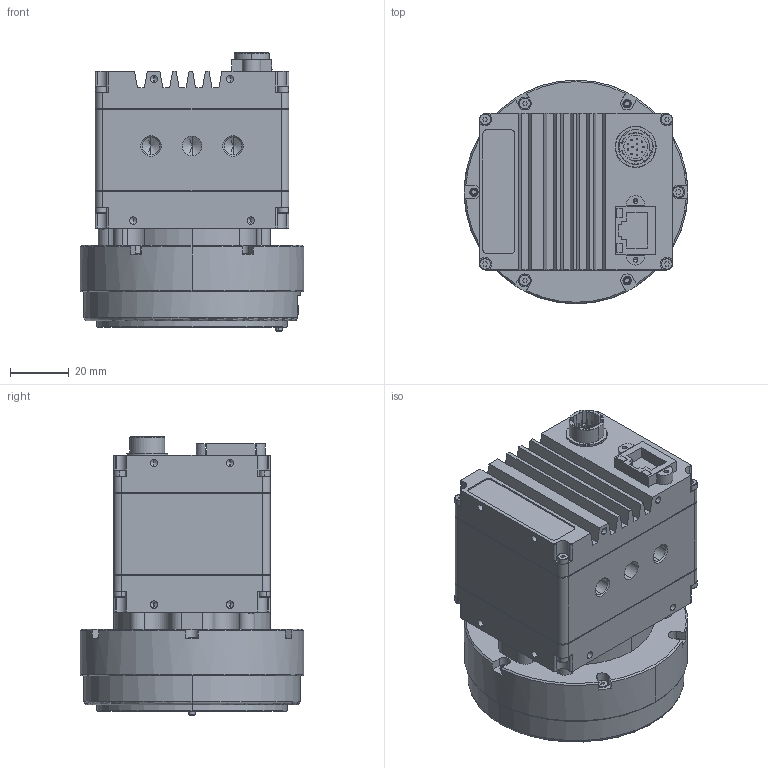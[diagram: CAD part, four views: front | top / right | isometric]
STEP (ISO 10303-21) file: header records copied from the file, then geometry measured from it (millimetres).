
FILE_DESCRIPTION (( 'STEP AP214' ), '1' );
FILE_NAME ('GTLF PYTHON EF-MOUNT MONO.STEP', '2018-01-11T22:32:40', ( '' ), ( '' ), 'SwSTEP 2.0', 'SolidWorks 2017', '' );
FILE_SCHEMA (( 'AUTOMOTIVE_DESIGN' ));
Length unit declared in the file: millimetre
Products named in the file (4): GTLF PYTHON EF-MOUNT MONO; CANON EF FRONT ASSY - defeatured; GTLF PA FRONT ASSY - defeatured; GTLF BODY ASSY - defeatured_GT PYTHON
Assembly tree (3 placements, depth 2):
  GTLF PYTHON EF-MOUNT MONO
    GTLF BODY ASSY - defeatured_GT PYTHON
    GTLF PA FRONT ASSY - defeatured
    CANON EF FRONT ASSY - defeatured
Bounding box: 76.2 x 76.2 x 94.72 mm (x, y, z)
Volume: 189608.2 mm3; surface area: 73487.3 mm2
Topology: 2 solids, 33 shells, 1295 faces, 3592 edges, 2328 vertices
Faces by surface type: cylinder 483, plane 478, cone 196, bspline 63, torus 49, sphere 26
Entity records: 66366 total; most frequent: CARTESIAN_POINT 25488, DIRECTION 7193, ORIENTED_EDGE 6483, EDGE_CURVE 3436, AXIS2_PLACEMENT_3D 2752, VERTEX_POINT 2304, LINE 1689, VECTOR 1689
